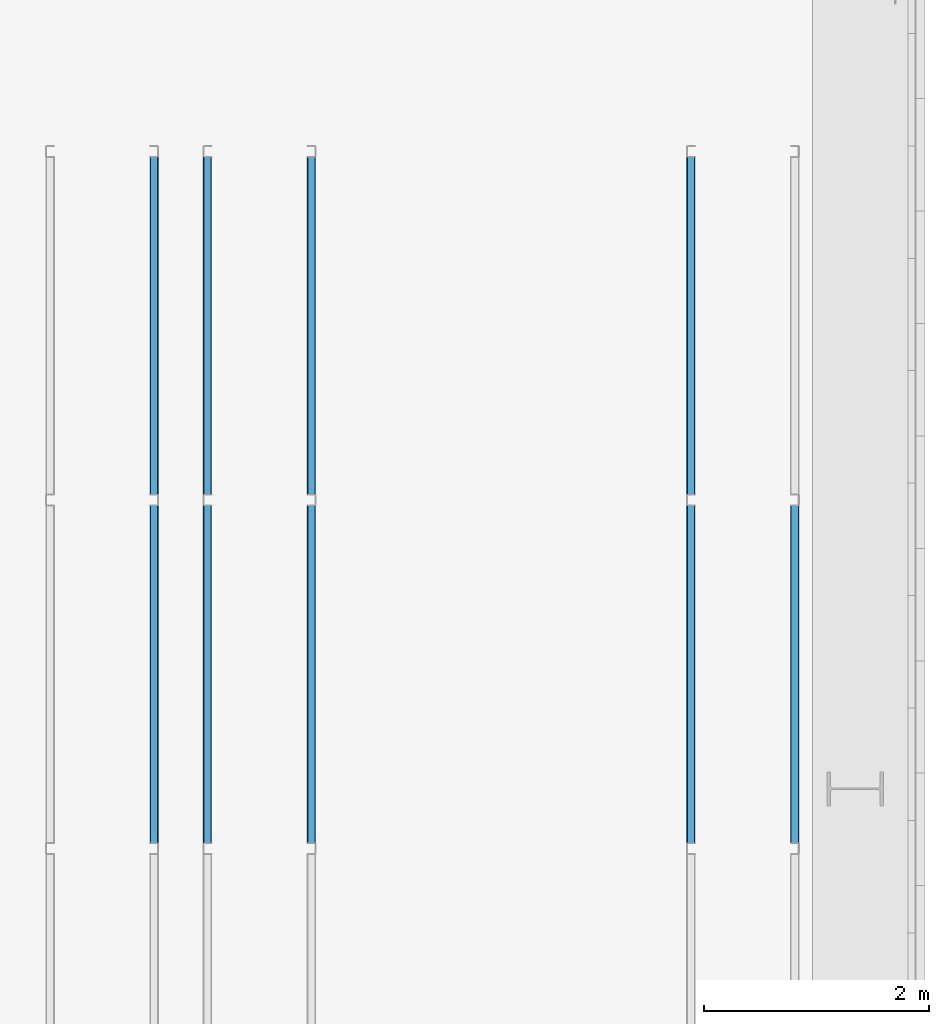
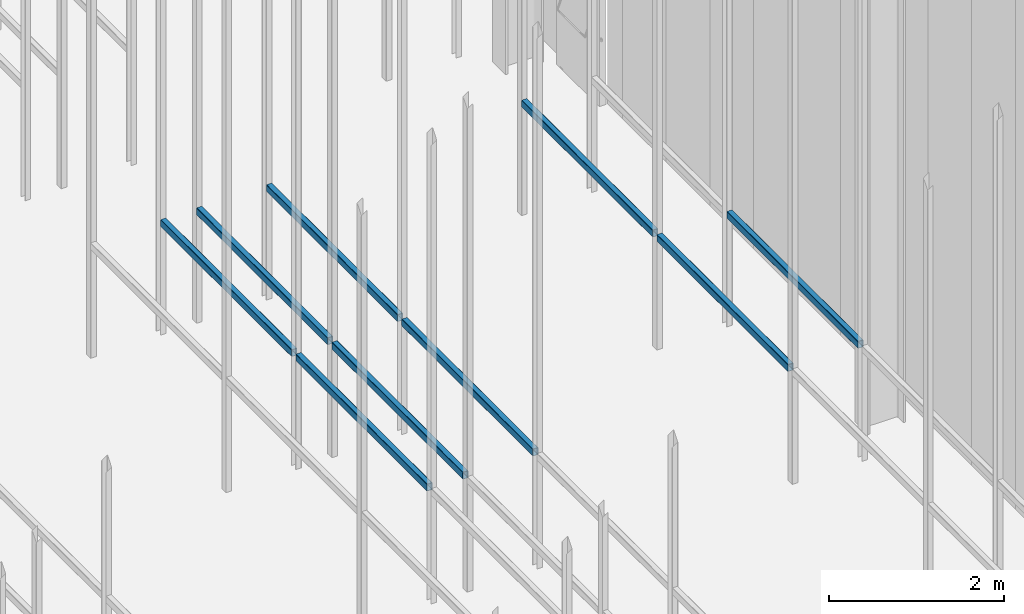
# One storey, part 152 of 302: 9 beams.
"""IFC2X3 building model written with IfcOpenShell, lengths in metres."""

from ifc_helpers import new_model, entity, si_unit, converted_unit, derived_unit, direction, frame, frame_2d, origin, place, context, subcontext, project, spatial, polyline, circle_curve, parameter, trimmed, segment, composite_curve, outline, extrude, material, type_object, element, save


model = new_model("IFC2X3")

# Units and contexts
model_context = context("Model", 3, precision=1e-05, world=origin(), true_north=direction((6.12303176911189e-17, 1.0)))
body_context = subcontext(model_context, "Body", "Model", "MODEL_VIEW")
ifc_project = project(units=[si_unit("LENGTHUNIT", "METRE"), si_unit("AREAUNIT", "SQUARE_METRE"), si_unit("VOLUMEUNIT", "CUBIC_METRE"), converted_unit("PLANEANGLEUNIT", "DEGREE", entity("IfcRatioMeasure", 0.0174532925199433), si_unit("PLANEANGLEUNIT", "RADIAN"), dimensions=[0, 0, 0, 0, 0, 0, 0]), si_unit("MASSUNIT", "GRAM", prefix="KILO"), derived_unit("MASSDENSITYUNIT", [(si_unit("MASSUNIT", "GRAM", prefix="KILO"), 1), (si_unit("LENGTHUNIT", "METRE"), -3)]), derived_unit("MOMENTOFINERTIAUNIT", [(si_unit("LENGTHUNIT", "METRE"), 4)]), si_unit("TIMEUNIT", "SECOND"), si_unit("FREQUENCYUNIT", "HERTZ"), si_unit("THERMODYNAMICTEMPERATUREUNIT", "DEGREE_CELSIUS"), derived_unit("THERMALTRANSMITTANCEUNIT", [(si_unit("MASSUNIT", "GRAM", prefix="KILO"), 1), (si_unit("THERMODYNAMICTEMPERATUREUNIT", "KELVIN"), -1), (si_unit("TIMEUNIT", "SECOND"), -3)]), derived_unit("VOLUMETRICFLOWRATEUNIT", [(si_unit("LENGTHUNIT", "METRE"), 3), (si_unit("TIMEUNIT", "SECOND"), -1)]), si_unit("ELECTRICCURRENTUNIT", "AMPERE"), si_unit("ELECTRICVOLTAGEUNIT", "VOLT"), si_unit("POWERUNIT", "WATT"), si_unit("FORCEUNIT", "NEWTON", prefix="KILO"), si_unit("ILLUMINANCEUNIT", "LUX"), si_unit("LUMINOUSFLUXUNIT", "LUMEN"), si_unit("LUMINOUSINTENSITYUNIT", "CANDELA"), derived_unit("USERDEFINED", [(si_unit("MASSUNIT", "GRAM", prefix="KILO"), -1), (si_unit("LENGTHUNIT", "METRE"), -2), (si_unit("TIMEUNIT", "SECOND"), 3), (si_unit("LUMINOUSFLUXUNIT", "LUMEN"), 1)]), derived_unit("LINEARVELOCITYUNIT", [(si_unit("LENGTHUNIT", "METRE"), 1), (si_unit("TIMEUNIT", "SECOND"), -1)]), si_unit("PRESSUREUNIT", "PASCAL"), derived_unit("USERDEFINED", [(si_unit("LENGTHUNIT", "METRE"), -2), (si_unit("MASSUNIT", "GRAM", prefix="KILO"), 1), (si_unit("TIMEUNIT", "SECOND"), -2)]), derived_unit("LINEARFORCEUNIT", [(si_unit("MASSUNIT", "GRAM", prefix="KILO"), 1), (si_unit("LENGTHUNIT", "METRE"), 1), (si_unit("TIMEUNIT", "SECOND"), -2), (si_unit("LENGTHUNIT", "METRE"), -1)]), derived_unit("PLANARFORCEUNIT", [(si_unit("MASSUNIT", "GRAM", prefix="KILO"), 1), (si_unit("LENGTHUNIT", "METRE"), 1), (si_unit("TIMEUNIT", "SECOND"), -2), (si_unit("LENGTHUNIT", "METRE"), -2)])], contexts=[model_context])

# Site, building, storey
site_placement = place(None, origin())
site = spatial("IfcSite", under=ifc_project, at=site_placement, Name="Default", CompositionType="ELEMENT")
building_placement = place(site_placement, origin())
building = spatial("IfcBuilding", under=site, at=building_placement, CompositionType="ELEMENT")
storey_placement = place(building_placement, frame((0.0, 0.0, -1.3)))
storey = spatial("IfcBuildingStorey", under=building, at=storey_placement, Name="00_EG", CompositionType="ELEMENT", Elevation=-1.3)

# Beams
ifc_material = material(Name="Metall - Baustahl S235 blau")
beam_type = type_object("IfcBeamType", Name="RHS Träger (EN 10219-2):RHS 100 x 75 x 5", PredefinedType="NOTDEFINED")
beam_1_placement = place(storey_placement, frame((-184.165111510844, 39.548088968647, 2.885), z_axis=(0.0, 0.0, 1.0), x_axis=(0.0, 1.0, 0.0)))
element("IfcBeam", 1, at=beam_1_placement, inside=storey, type_object=beam_type, material=ifc_material, Name="RHS Träger (EN 10219-2):RHS 100 x 75 x 5", ObjectType="RHS Träger (EN 10219-2):RHS 100 x 75 x 5", context=body_context, shape_type="SweptSolid", body=[
    extrude(outline(composite_curve([segment(polyline([(-0.0399999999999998, -0.0374999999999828), (0.0400000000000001, -0.0374999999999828)]), True, "CONTINUOUS"), segment(trimmed(circle_curve(frame_2d((0.0399999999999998, -0.0274999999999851), x_axis=(0.0, 1.0)), 0.01), [parameter(180.0)], [parameter(270.0)], True, "PARAMETER"), True, "CONTINUOUS"), segment(polyline([(0.05, -0.0274999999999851), (0.05, 0.0274999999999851)]), True, "CONTINUOUS"), segment(trimmed(circle_curve(frame_2d((0.0399999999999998, 0.0274999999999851), x_axis=(0.0, 1.0)), 0.01), [parameter(270.0)], [parameter(4.07110999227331e-13)], True, "PARAMETER"), True, "CONTINUOUS"), segment(polyline([(0.0400000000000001, 0.0375000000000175), (-0.0399999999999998, 0.0375000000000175)]), True, "CONTINUOUS"), segment(trimmed(circle_curve(frame_2d((-0.0400000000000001, 0.0274999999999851), x_axis=(0.0, 1.0)), 0.01), [parameter(360.0)], [parameter(90.0000000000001)], True, "PARAMETER"), True, "CONTINUOUS"), segment(polyline([(-0.05, 0.0274999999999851), (-0.05, -0.0274999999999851)]), True, "CONTINUOUS"), segment(trimmed(circle_curve(frame_2d((-0.0400000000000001, -0.0274999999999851), x_axis=(0.0, 1.0)), 0.01), [parameter(90.0000000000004)], [parameter(180.0)], True, "PARAMETER"), True, "CONTINUOUS")], self_intersect=False), holes=[composite_curve([segment(trimmed(circle_curve(frame_2d((-0.0400000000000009, 0.0274999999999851), x_axis=(0.0, 1.0)), 0.005), [parameter(360.0)], [parameter(89.9999999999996)], True, "PARAMETER"), False, "CONTINUOUS"), segment(polyline([(-0.0400000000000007, 0.0325000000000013), (0.0399999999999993, 0.0325000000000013)]), True, "CONTINUOUS"), segment(trimmed(circle_curve(frame_2d((0.039999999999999, 0.0274999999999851), x_axis=(0.0, 1.0)), 0.005), [parameter(270.0)], [parameter(0.0)], True, "PARAMETER"), False, "CONTINUOUS"), segment(polyline([(0.0449999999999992, 0.0274999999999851), (0.0449999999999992, -0.0274999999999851)]), True, "CONTINUOUS"), segment(trimmed(circle_curve(frame_2d((0.039999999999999, -0.0274999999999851), x_axis=(0.0, 1.0)), 0.005), [parameter(180.0)], [parameter(269.999999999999)], True, "PARAMETER"), False, "CONTINUOUS"), segment(polyline([(0.0399999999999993, -0.0325000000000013), (-0.0400000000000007, -0.0325000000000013)]), True, "CONTINUOUS"), segment(trimmed(circle_curve(frame_2d((-0.0400000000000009, -0.0274999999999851), x_axis=(0.0, 1.0)), 0.005), [parameter(90.0000000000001)], [parameter(180.0)], True, "PARAMETER"), False, "CONTINUOUS"), segment(polyline([(-0.0450000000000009, -0.0274999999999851), (-0.0450000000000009, 0.0274999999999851)]), True, "CONTINUOUS")], self_intersect=False)]), frame((0.000100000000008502, -0.0375000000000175, -0.0500000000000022), z_axis=(1.0, 0.0, 0.0), x_axis=(0.0, 0.0, -1.0)), (0.0, 0.0, 1.0), 2.99979999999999),
])
beam_2_placement = place(storey_placement, frame((-183.615111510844, 39.548088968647, 2.885), z_axis=(0.0, 0.0, 1.0), x_axis=(0.0, 1.0, 0.0)))
element("IfcBeam", 2, at=beam_2_placement, inside=storey, type_object=beam_type, material=ifc_material, Name="RHS Träger (EN 10219-2):RHS 100 x 75 x 5", ObjectType="RHS Träger (EN 10219-2):RHS 100 x 75 x 5", context=body_context, shape_type="SweptSolid", body=[
    extrude(outline(composite_curve([segment(trimmed(circle_curve(frame_2d((-0.0274999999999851, -0.0400000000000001), x_axis=(1.0, 0.0)), 0.01), [parameter(180.0)], [parameter(270.0)], True, "PARAMETER"), True, "CONTINUOUS"), segment(polyline([(-0.0274999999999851, -0.05), (0.0274999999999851, -0.05)]), True, "CONTINUOUS"), segment(trimmed(circle_curve(frame_2d((0.0274999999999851, -0.0400000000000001), x_axis=(1.0, 0.0)), 0.01), [parameter(270.0)], [parameter(5.08888749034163e-14)], True, "PARAMETER"), True, "CONTINUOUS"), segment(polyline([(0.0375000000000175, -0.0399999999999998), (0.0375000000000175, 0.0400000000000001)]), True, "CONTINUOUS"), segment(trimmed(circle_curve(frame_2d((0.0274999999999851, 0.0399999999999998), x_axis=(1.0, 0.0)), 0.01), [parameter(360.0)], [parameter(89.9999999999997)], True, "PARAMETER"), True, "CONTINUOUS"), segment(polyline([(0.0274999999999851, 0.05), (-0.0274999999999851, 0.05)]), True, "CONTINUOUS"), segment(trimmed(circle_curve(frame_2d((-0.0274999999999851, 0.0399999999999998), x_axis=(1.0, 0.0)), 0.01), [parameter(90.0000000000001)], [parameter(180.0)], True, "PARAMETER"), True, "CONTINUOUS"), segment(polyline([(-0.0374999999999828, 0.0400000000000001), (-0.0374999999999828, -0.0399999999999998)]), True, "CONTINUOUS")], self_intersect=False), holes=[composite_curve([segment(polyline([(0.0274999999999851, -0.0450000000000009), (-0.0274999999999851, -0.0450000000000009)]), True, "CONTINUOUS"), segment(trimmed(circle_curve(frame_2d((-0.0274999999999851, -0.0400000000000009), x_axis=(1.0, 0.0)), 0.005), [parameter(180.0)], [parameter(270.0)], True, "PARAMETER"), False, "CONTINUOUS"), segment(polyline([(-0.0325000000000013, -0.0400000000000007), (-0.0325000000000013, 0.0399999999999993)]), True, "CONTINUOUS"), segment(trimmed(circle_curve(frame_2d((-0.0274999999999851, 0.039999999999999), x_axis=(1.0, 0.0)), 0.005), [parameter(90.0000000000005)], [parameter(180.0)], True, "PARAMETER"), False, "CONTINUOUS"), segment(polyline([(-0.0274999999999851, 0.0449999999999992), (0.0274999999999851, 0.0449999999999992)]), True, "CONTINUOUS"), segment(trimmed(circle_curve(frame_2d((0.0274999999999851, 0.039999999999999), x_axis=(1.0, 0.0)), 0.005), [parameter(0.0)], [parameter(90.0000000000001)], True, "PARAMETER"), False, "CONTINUOUS"), segment(polyline([(0.0325000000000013, 0.0399999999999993), (0.0325000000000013, -0.0400000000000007)]), True, "CONTINUOUS"), segment(trimmed(circle_curve(frame_2d((0.0274999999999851, -0.0400000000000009), x_axis=(1.0, 0.0)), 0.005), [parameter(270.0)], [parameter(4.07110999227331e-13)], True, "PARAMETER"), False, "CONTINUOUS")], self_intersect=False)]), frame((0.000100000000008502, 0.0375000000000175, -0.0500000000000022), z_axis=(1.0, 0.0, 0.0), x_axis=(0.0, -1.0, 0.0)), (0.0, 0.0, 1.0), 2.99979999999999),
])
beam_3_placement = place(storey_placement, frame((-182.765111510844, 39.548088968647, 2.885), z_axis=(0.0, 0.0, 1.0), x_axis=(0.0, 1.0, 0.0)))
element("IfcBeam", 3, at=beam_3_placement, inside=storey, type_object=beam_type, material=ifc_material, Name="RHS Träger (EN 10219-2):RHS 100 x 75 x 5", ObjectType="RHS Träger (EN 10219-2):RHS 100 x 75 x 5", context=body_context, shape_type="SweptSolid", body=[
    extrude(outline(composite_curve([segment(polyline([(-0.0399999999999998, -0.0374999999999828), (0.0400000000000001, -0.0374999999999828)]), True, "CONTINUOUS"), segment(trimmed(circle_curve(frame_2d((0.0399999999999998, -0.0274999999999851), x_axis=(0.0, 1.0)), 0.01), [parameter(180.0)], [parameter(270.0)], True, "PARAMETER"), True, "CONTINUOUS"), segment(polyline([(0.05, -0.0274999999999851), (0.05, 0.0274999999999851)]), True, "CONTINUOUS"), segment(trimmed(circle_curve(frame_2d((0.0399999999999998, 0.0274999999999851), x_axis=(0.0, 1.0)), 0.01), [parameter(270.0)], [parameter(4.07110999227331e-13)], True, "PARAMETER"), True, "CONTINUOUS"), segment(polyline([(0.0400000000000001, 0.0375000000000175), (-0.0399999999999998, 0.0375000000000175)]), True, "CONTINUOUS"), segment(trimmed(circle_curve(frame_2d((-0.0400000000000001, 0.0274999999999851), x_axis=(0.0, 1.0)), 0.01), [parameter(360.0)], [parameter(90.0000000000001)], True, "PARAMETER"), True, "CONTINUOUS"), segment(polyline([(-0.05, 0.0274999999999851), (-0.05, -0.0274999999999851)]), True, "CONTINUOUS"), segment(trimmed(circle_curve(frame_2d((-0.0400000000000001, -0.0274999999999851), x_axis=(0.0, 1.0)), 0.01), [parameter(90.0000000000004)], [parameter(180.0)], True, "PARAMETER"), True, "CONTINUOUS")], self_intersect=False), holes=[composite_curve([segment(trimmed(circle_curve(frame_2d((-0.0400000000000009, 0.0274999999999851), x_axis=(0.0, 1.0)), 0.005), [parameter(360.0)], [parameter(89.9999999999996)], True, "PARAMETER"), False, "CONTINUOUS"), segment(polyline([(-0.0400000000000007, 0.0325000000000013), (0.0399999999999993, 0.0325000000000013)]), True, "CONTINUOUS"), segment(trimmed(circle_curve(frame_2d((0.039999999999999, 0.0274999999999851), x_axis=(0.0, 1.0)), 0.005), [parameter(270.0)], [parameter(0.0)], True, "PARAMETER"), False, "CONTINUOUS"), segment(polyline([(0.0449999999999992, 0.0274999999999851), (0.0449999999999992, -0.0274999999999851)]), True, "CONTINUOUS"), segment(trimmed(circle_curve(frame_2d((0.039999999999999, -0.0274999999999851), x_axis=(0.0, 1.0)), 0.005), [parameter(180.0)], [parameter(269.999999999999)], True, "PARAMETER"), False, "CONTINUOUS"), segment(polyline([(0.0399999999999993, -0.0325000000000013), (-0.0400000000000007, -0.0325000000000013)]), True, "CONTINUOUS"), segment(trimmed(circle_curve(frame_2d((-0.0400000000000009, -0.0274999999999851), x_axis=(0.0, 1.0)), 0.005), [parameter(90.0000000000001)], [parameter(180.0)], True, "PARAMETER"), False, "CONTINUOUS"), segment(polyline([(-0.0450000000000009, -0.0274999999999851), (-0.0450000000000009, 0.0274999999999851)]), True, "CONTINUOUS")], self_intersect=False)]), frame((0.000100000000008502, -0.0375000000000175, -0.0500000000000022), z_axis=(1.0, 0.0, 0.0), x_axis=(0.0, 0.0, -1.0)), (0.0, 0.0, 1.0), 2.99979999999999),
])
beam_4_placement = place(storey_placement, frame((-179.315111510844, 39.5480889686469, 2.885), z_axis=(0.0, 0.0, 1.0), x_axis=(0.0, 1.0, 0.0)))
element("IfcBeam", 4, at=beam_4_placement, inside=storey, type_object=beam_type, material=ifc_material, Name="RHS Träger (EN 10219-2):RHS 100 x 75 x 5", ObjectType="RHS Träger (EN 10219-2):RHS 100 x 75 x 5", context=body_context, shape_type="SweptSolid", body=[
    extrude(outline(composite_curve([segment(trimmed(circle_curve(frame_2d((-0.0274999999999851, -0.0400000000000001), x_axis=(1.0, 0.0)), 0.01), [parameter(180.0)], [parameter(270.0)], True, "PARAMETER"), True, "CONTINUOUS"), segment(polyline([(-0.0274999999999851, -0.05), (0.0274999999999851, -0.05)]), True, "CONTINUOUS"), segment(trimmed(circle_curve(frame_2d((0.0274999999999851, -0.0400000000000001), x_axis=(1.0, 0.0)), 0.01), [parameter(270.0)], [parameter(5.08888749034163e-14)], True, "PARAMETER"), True, "CONTINUOUS"), segment(polyline([(0.0375000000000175, -0.0399999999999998), (0.0375000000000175, 0.0400000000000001)]), True, "CONTINUOUS"), segment(trimmed(circle_curve(frame_2d((0.0274999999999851, 0.0399999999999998), x_axis=(1.0, 0.0)), 0.01), [parameter(360.0)], [parameter(89.9999999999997)], True, "PARAMETER"), True, "CONTINUOUS"), segment(polyline([(0.0274999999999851, 0.05), (-0.0274999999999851, 0.05)]), True, "CONTINUOUS"), segment(trimmed(circle_curve(frame_2d((-0.0274999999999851, 0.0399999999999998), x_axis=(1.0, 0.0)), 0.01), [parameter(90.0000000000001)], [parameter(180.0)], True, "PARAMETER"), True, "CONTINUOUS"), segment(polyline([(-0.0374999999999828, 0.0400000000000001), (-0.0374999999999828, -0.0399999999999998)]), True, "CONTINUOUS")], self_intersect=False), holes=[composite_curve([segment(polyline([(0.0274999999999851, -0.0450000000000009), (-0.0274999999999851, -0.0450000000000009)]), True, "CONTINUOUS"), segment(trimmed(circle_curve(frame_2d((-0.0274999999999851, -0.0400000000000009), x_axis=(1.0, 0.0)), 0.005), [parameter(180.0)], [parameter(270.0)], True, "PARAMETER"), False, "CONTINUOUS"), segment(polyline([(-0.0325000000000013, -0.0400000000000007), (-0.0325000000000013, 0.0399999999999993)]), True, "CONTINUOUS"), segment(trimmed(circle_curve(frame_2d((-0.0274999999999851, 0.039999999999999), x_axis=(1.0, 0.0)), 0.005), [parameter(90.0000000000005)], [parameter(180.0)], True, "PARAMETER"), False, "CONTINUOUS"), segment(polyline([(-0.0274999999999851, 0.0449999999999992), (0.0274999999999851, 0.0449999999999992)]), True, "CONTINUOUS"), segment(trimmed(circle_curve(frame_2d((0.0274999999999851, 0.039999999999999), x_axis=(1.0, 0.0)), 0.005), [parameter(0.0)], [parameter(90.0000000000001)], True, "PARAMETER"), False, "CONTINUOUS"), segment(polyline([(0.0325000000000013, 0.0399999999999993), (0.0325000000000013, -0.0400000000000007)]), True, "CONTINUOUS"), segment(trimmed(circle_curve(frame_2d((0.0274999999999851, -0.0400000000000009), x_axis=(1.0, 0.0)), 0.005), [parameter(270.0)], [parameter(4.07110999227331e-13)], True, "PARAMETER"), False, "CONTINUOUS")], self_intersect=False)]), frame((9.99999999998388e-05, 0.0375000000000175, -0.0500000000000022), z_axis=(1.0, 0.0, 0.0), x_axis=(0.0, -1.0, 0.0)), (0.0, 0.0, 1.0), 2.99979999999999),
])
beam_5_placement = place(storey_placement, frame((-178.465111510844, 39.5480889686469, 2.885), z_axis=(0.0, 0.0, 1.0), x_axis=(0.0, 1.0, 0.0)))
element("IfcBeam", 5, at=beam_5_placement, inside=storey, type_object=beam_type, material=ifc_material, Name="RHS Träger (EN 10219-2):RHS 100 x 75 x 5", ObjectType="RHS Träger (EN 10219-2):RHS 100 x 75 x 5", context=body_context, shape_type="SweptSolid", body=[
    extrude(outline(composite_curve([segment(polyline([(-0.0399999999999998, -0.0374999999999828), (0.0400000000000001, -0.0374999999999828)]), True, "CONTINUOUS"), segment(trimmed(circle_curve(frame_2d((0.0399999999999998, -0.0274999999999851), x_axis=(0.0, 1.0)), 0.01), [parameter(180.0)], [parameter(270.0)], True, "PARAMETER"), True, "CONTINUOUS"), segment(polyline([(0.05, -0.0274999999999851), (0.05, 0.0274999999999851)]), True, "CONTINUOUS"), segment(trimmed(circle_curve(frame_2d((0.0399999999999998, 0.0274999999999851), x_axis=(0.0, 1.0)), 0.01), [parameter(270.0)], [parameter(4.07110999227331e-13)], True, "PARAMETER"), True, "CONTINUOUS"), segment(polyline([(0.0400000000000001, 0.0375000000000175), (-0.0399999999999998, 0.0375000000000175)]), True, "CONTINUOUS"), segment(trimmed(circle_curve(frame_2d((-0.0400000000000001, 0.0274999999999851), x_axis=(0.0, 1.0)), 0.01), [parameter(360.0)], [parameter(90.0000000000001)], True, "PARAMETER"), True, "CONTINUOUS"), segment(polyline([(-0.05, 0.0274999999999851), (-0.05, -0.0274999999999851)]), True, "CONTINUOUS"), segment(trimmed(circle_curve(frame_2d((-0.0400000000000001, -0.0274999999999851), x_axis=(0.0, 1.0)), 0.01), [parameter(90.0000000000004)], [parameter(180.0)], True, "PARAMETER"), True, "CONTINUOUS")], self_intersect=False), holes=[composite_curve([segment(trimmed(circle_curve(frame_2d((-0.0400000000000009, 0.0274999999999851), x_axis=(0.0, 1.0)), 0.005), [parameter(360.0)], [parameter(89.9999999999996)], True, "PARAMETER"), False, "CONTINUOUS"), segment(polyline([(-0.0400000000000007, 0.0325000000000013), (0.0399999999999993, 0.0325000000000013)]), True, "CONTINUOUS"), segment(trimmed(circle_curve(frame_2d((0.039999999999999, 0.0274999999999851), x_axis=(0.0, 1.0)), 0.005), [parameter(270.0)], [parameter(0.0)], True, "PARAMETER"), False, "CONTINUOUS"), segment(polyline([(0.0449999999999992, 0.0274999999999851), (0.0449999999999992, -0.0274999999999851)]), True, "CONTINUOUS"), segment(trimmed(circle_curve(frame_2d((0.039999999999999, -0.0274999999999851), x_axis=(0.0, 1.0)), 0.005), [parameter(180.0)], [parameter(269.999999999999)], True, "PARAMETER"), False, "CONTINUOUS"), segment(polyline([(0.0399999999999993, -0.0325000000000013), (-0.0400000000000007, -0.0325000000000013)]), True, "CONTINUOUS"), segment(trimmed(circle_curve(frame_2d((-0.0400000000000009, -0.0274999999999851), x_axis=(0.0, 1.0)), 0.005), [parameter(90.0000000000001)], [parameter(180.0)], True, "PARAMETER"), False, "CONTINUOUS"), segment(polyline([(-0.0450000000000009, -0.0274999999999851), (-0.0450000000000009, 0.0274999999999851)]), True, "CONTINUOUS")], self_intersect=False)]), frame((9.99999999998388e-05, -0.0375000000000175, -0.0500000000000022), z_axis=(1.0, 0.0, 0.0), x_axis=(0.0, 0.0, -1.0)), (0.0, 0.0, 1.0), 2.99979999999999),
])
beam_6_placement = place(storey_placement, frame((-184.165111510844, 42.648088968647, 2.885), z_axis=(0.0, 0.0, 1.0), x_axis=(0.0, 1.0, 0.0)))
element("IfcBeam", 6, at=beam_6_placement, inside=storey, type_object=beam_type, material=ifc_material, Name="RHS Träger (EN 10219-2):RHS 100 x 75 x 5", ObjectType="RHS Träger (EN 10219-2):RHS 100 x 75 x 5", context=body_context, shape_type="SweptSolid", body=[
    extrude(outline(composite_curve([segment(polyline([(-0.0399999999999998, -0.0374999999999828), (0.0400000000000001, -0.0374999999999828)]), True, "CONTINUOUS"), segment(trimmed(circle_curve(frame_2d((0.0399999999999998, -0.0274999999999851), x_axis=(0.0, 1.0)), 0.01), [parameter(180.0)], [parameter(270.0)], True, "PARAMETER"), True, "CONTINUOUS"), segment(polyline([(0.05, -0.0274999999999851), (0.05, 0.0274999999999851)]), True, "CONTINUOUS"), segment(trimmed(circle_curve(frame_2d((0.0399999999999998, 0.0274999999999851), x_axis=(0.0, 1.0)), 0.01), [parameter(270.0)], [parameter(4.07110999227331e-13)], True, "PARAMETER"), True, "CONTINUOUS"), segment(polyline([(0.0400000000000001, 0.0375000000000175), (-0.0399999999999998, 0.0375000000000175)]), True, "CONTINUOUS"), segment(trimmed(circle_curve(frame_2d((-0.0400000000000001, 0.0274999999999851), x_axis=(0.0, 1.0)), 0.01), [parameter(360.0)], [parameter(90.0000000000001)], True, "PARAMETER"), True, "CONTINUOUS"), segment(polyline([(-0.05, 0.0274999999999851), (-0.05, -0.0274999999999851)]), True, "CONTINUOUS"), segment(trimmed(circle_curve(frame_2d((-0.0400000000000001, -0.0274999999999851), x_axis=(0.0, 1.0)), 0.01), [parameter(90.0000000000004)], [parameter(180.0)], True, "PARAMETER"), True, "CONTINUOUS")], self_intersect=False), holes=[composite_curve([segment(trimmed(circle_curve(frame_2d((-0.0400000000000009, 0.0274999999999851), x_axis=(0.0, 1.0)), 0.005), [parameter(360.0)], [parameter(89.9999999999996)], True, "PARAMETER"), False, "CONTINUOUS"), segment(polyline([(-0.0400000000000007, 0.0325000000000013), (0.0399999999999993, 0.0325000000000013)]), True, "CONTINUOUS"), segment(trimmed(circle_curve(frame_2d((0.039999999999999, 0.0274999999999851), x_axis=(0.0, 1.0)), 0.005), [parameter(270.0)], [parameter(0.0)], True, "PARAMETER"), False, "CONTINUOUS"), segment(polyline([(0.0449999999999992, 0.0274999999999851), (0.0449999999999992, -0.0274999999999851)]), True, "CONTINUOUS"), segment(trimmed(circle_curve(frame_2d((0.039999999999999, -0.0274999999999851), x_axis=(0.0, 1.0)), 0.005), [parameter(180.0)], [parameter(269.999999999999)], True, "PARAMETER"), False, "CONTINUOUS"), segment(polyline([(0.0399999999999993, -0.0325000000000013), (-0.0400000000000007, -0.0325000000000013)]), True, "CONTINUOUS"), segment(trimmed(circle_curve(frame_2d((-0.0400000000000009, -0.0274999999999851), x_axis=(0.0, 1.0)), 0.005), [parameter(90.0000000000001)], [parameter(180.0)], True, "PARAMETER"), False, "CONTINUOUS"), segment(polyline([(-0.0450000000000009, -0.0274999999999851), (-0.0450000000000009, 0.0274999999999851)]), True, "CONTINUOUS")], self_intersect=False)]), frame((0.000100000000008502, -0.0375000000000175, -0.0500000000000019), z_axis=(1.0, 0.0, 0.0), x_axis=(0.0, 0.0, -1.0)), (0.0, 0.0, 1.0), 2.99979999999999),
])
beam_7_placement = place(storey_placement, frame((-183.615111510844, 42.648088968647, 2.885), z_axis=(0.0, 0.0, 1.0), x_axis=(0.0, 1.0, 0.0)))
element("IfcBeam", 7, at=beam_7_placement, inside=storey, type_object=beam_type, material=ifc_material, Name="RHS Träger (EN 10219-2):RHS 100 x 75 x 5", ObjectType="RHS Träger (EN 10219-2):RHS 100 x 75 x 5", context=body_context, shape_type="SweptSolid", body=[
    extrude(outline(composite_curve([segment(trimmed(circle_curve(frame_2d((-0.0274999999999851, -0.0400000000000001), x_axis=(1.0, 0.0)), 0.01), [parameter(180.0)], [parameter(270.0)], True, "PARAMETER"), True, "CONTINUOUS"), segment(polyline([(-0.0274999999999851, -0.05), (0.0274999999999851, -0.05)]), True, "CONTINUOUS"), segment(trimmed(circle_curve(frame_2d((0.0274999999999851, -0.0400000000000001), x_axis=(1.0, 0.0)), 0.01), [parameter(270.0)], [parameter(5.08888749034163e-14)], True, "PARAMETER"), True, "CONTINUOUS"), segment(polyline([(0.0375000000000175, -0.0399999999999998), (0.0375000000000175, 0.0400000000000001)]), True, "CONTINUOUS"), segment(trimmed(circle_curve(frame_2d((0.0274999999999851, 0.0399999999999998), x_axis=(1.0, 0.0)), 0.01), [parameter(360.0)], [parameter(89.9999999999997)], True, "PARAMETER"), True, "CONTINUOUS"), segment(polyline([(0.0274999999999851, 0.05), (-0.0274999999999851, 0.05)]), True, "CONTINUOUS"), segment(trimmed(circle_curve(frame_2d((-0.0274999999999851, 0.0399999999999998), x_axis=(1.0, 0.0)), 0.01), [parameter(90.0000000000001)], [parameter(180.0)], True, "PARAMETER"), True, "CONTINUOUS"), segment(polyline([(-0.0374999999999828, 0.0400000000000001), (-0.0374999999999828, -0.0399999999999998)]), True, "CONTINUOUS")], self_intersect=False), holes=[composite_curve([segment(polyline([(0.0274999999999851, -0.0450000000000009), (-0.0274999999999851, -0.0450000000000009)]), True, "CONTINUOUS"), segment(trimmed(circle_curve(frame_2d((-0.0274999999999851, -0.0400000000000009), x_axis=(1.0, 0.0)), 0.005), [parameter(180.0)], [parameter(270.0)], True, "PARAMETER"), False, "CONTINUOUS"), segment(polyline([(-0.0325000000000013, -0.0400000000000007), (-0.0325000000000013, 0.0399999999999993)]), True, "CONTINUOUS"), segment(trimmed(circle_curve(frame_2d((-0.0274999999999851, 0.039999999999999), x_axis=(1.0, 0.0)), 0.005), [parameter(90.0000000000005)], [parameter(180.0)], True, "PARAMETER"), False, "CONTINUOUS"), segment(polyline([(-0.0274999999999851, 0.0449999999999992), (0.0274999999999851, 0.0449999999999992)]), True, "CONTINUOUS"), segment(trimmed(circle_curve(frame_2d((0.0274999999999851, 0.039999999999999), x_axis=(1.0, 0.0)), 0.005), [parameter(0.0)], [parameter(90.0000000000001)], True, "PARAMETER"), False, "CONTINUOUS"), segment(polyline([(0.0325000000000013, 0.0399999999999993), (0.0325000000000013, -0.0400000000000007)]), True, "CONTINUOUS"), segment(trimmed(circle_curve(frame_2d((0.0274999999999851, -0.0400000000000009), x_axis=(1.0, 0.0)), 0.005), [parameter(270.0)], [parameter(4.07110999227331e-13)], True, "PARAMETER"), False, "CONTINUOUS")], self_intersect=False)]), frame((9.99999999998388e-05, 0.0375000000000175, -0.0500000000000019), z_axis=(1.0, 0.0, 0.0), x_axis=(0.0, -1.0, 0.0)), (0.0, 0.0, 1.0), 2.99979999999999),
])
beam_8_placement = place(storey_placement, frame((-182.765111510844, 42.648088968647, 2.885), z_axis=(0.0, 0.0, 1.0), x_axis=(0.0, 1.0, 0.0)))
element("IfcBeam", 8, at=beam_8_placement, inside=storey, type_object=beam_type, material=ifc_material, Name="RHS Träger (EN 10219-2):RHS 100 x 75 x 5", ObjectType="RHS Träger (EN 10219-2):RHS 100 x 75 x 5", context=body_context, shape_type="SweptSolid", body=[
    extrude(outline(composite_curve([segment(polyline([(-0.0399999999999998, -0.0374999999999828), (0.0400000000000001, -0.0374999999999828)]), True, "CONTINUOUS"), segment(trimmed(circle_curve(frame_2d((0.0399999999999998, -0.0274999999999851), x_axis=(0.0, 1.0)), 0.01), [parameter(180.0)], [parameter(270.0)], True, "PARAMETER"), True, "CONTINUOUS"), segment(polyline([(0.05, -0.0274999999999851), (0.05, 0.0274999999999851)]), True, "CONTINUOUS"), segment(trimmed(circle_curve(frame_2d((0.0399999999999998, 0.0274999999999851), x_axis=(0.0, 1.0)), 0.01), [parameter(270.0)], [parameter(4.07110999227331e-13)], True, "PARAMETER"), True, "CONTINUOUS"), segment(polyline([(0.0400000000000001, 0.0375000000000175), (-0.0399999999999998, 0.0375000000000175)]), True, "CONTINUOUS"), segment(trimmed(circle_curve(frame_2d((-0.0400000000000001, 0.0274999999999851), x_axis=(0.0, 1.0)), 0.01), [parameter(360.0)], [parameter(90.0000000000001)], True, "PARAMETER"), True, "CONTINUOUS"), segment(polyline([(-0.05, 0.0274999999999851), (-0.05, -0.0274999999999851)]), True, "CONTINUOUS"), segment(trimmed(circle_curve(frame_2d((-0.0400000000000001, -0.0274999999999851), x_axis=(0.0, 1.0)), 0.01), [parameter(90.0000000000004)], [parameter(180.0)], True, "PARAMETER"), True, "CONTINUOUS")], self_intersect=False), holes=[composite_curve([segment(trimmed(circle_curve(frame_2d((-0.0400000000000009, 0.0274999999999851), x_axis=(0.0, 1.0)), 0.005), [parameter(360.0)], [parameter(89.9999999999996)], True, "PARAMETER"), False, "CONTINUOUS"), segment(polyline([(-0.0400000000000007, 0.0325000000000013), (0.0399999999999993, 0.0325000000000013)]), True, "CONTINUOUS"), segment(trimmed(circle_curve(frame_2d((0.039999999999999, 0.0274999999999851), x_axis=(0.0, 1.0)), 0.005), [parameter(270.0)], [parameter(0.0)], True, "PARAMETER"), False, "CONTINUOUS"), segment(polyline([(0.0449999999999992, 0.0274999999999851), (0.0449999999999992, -0.0274999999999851)]), True, "CONTINUOUS"), segment(trimmed(circle_curve(frame_2d((0.039999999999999, -0.0274999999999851), x_axis=(0.0, 1.0)), 0.005), [parameter(180.0)], [parameter(269.999999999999)], True, "PARAMETER"), False, "CONTINUOUS"), segment(polyline([(0.0399999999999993, -0.0325000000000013), (-0.0400000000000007, -0.0325000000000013)]), True, "CONTINUOUS"), segment(trimmed(circle_curve(frame_2d((-0.0400000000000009, -0.0274999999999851), x_axis=(0.0, 1.0)), 0.005), [parameter(90.0000000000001)], [parameter(180.0)], True, "PARAMETER"), False, "CONTINUOUS"), segment(polyline([(-0.0450000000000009, -0.0274999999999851), (-0.0450000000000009, 0.0274999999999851)]), True, "CONTINUOUS")], self_intersect=False)]), frame((9.99999999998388e-05, -0.0375000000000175, -0.0500000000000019), z_axis=(1.0, 0.0, 0.0), x_axis=(0.0, 0.0, -1.0)), (0.0, 0.0, 1.0), 2.99979999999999),
])
beam_9_placement = place(storey_placement, frame((-179.315111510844, 42.6480889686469, 2.885), z_axis=(0.0, 0.0, 1.0), x_axis=(0.0, 1.0, 0.0)))
element("IfcBeam", 9, at=beam_9_placement, inside=storey, type_object=beam_type, material=ifc_material, Name="RHS Träger (EN 10219-2):RHS 100 x 75 x 5", ObjectType="RHS Träger (EN 10219-2):RHS 100 x 75 x 5", context=body_context, shape_type="SweptSolid", body=[
    extrude(outline(composite_curve([segment(trimmed(circle_curve(frame_2d((-0.0274999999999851, -0.0400000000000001), x_axis=(1.0, 0.0)), 0.01), [parameter(180.0)], [parameter(270.0)], True, "PARAMETER"), True, "CONTINUOUS"), segment(polyline([(-0.0274999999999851, -0.05), (0.0274999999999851, -0.05)]), True, "CONTINUOUS"), segment(trimmed(circle_curve(frame_2d((0.0274999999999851, -0.0400000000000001), x_axis=(1.0, 0.0)), 0.01), [parameter(270.0)], [parameter(5.08888749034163e-14)], True, "PARAMETER"), True, "CONTINUOUS"), segment(polyline([(0.0375000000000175, -0.0399999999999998), (0.0375000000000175, 0.0400000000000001)]), True, "CONTINUOUS"), segment(trimmed(circle_curve(frame_2d((0.0274999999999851, 0.0399999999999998), x_axis=(1.0, 0.0)), 0.01), [parameter(360.0)], [parameter(89.9999999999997)], True, "PARAMETER"), True, "CONTINUOUS"), segment(polyline([(0.0274999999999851, 0.05), (-0.0274999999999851, 0.05)]), True, "CONTINUOUS"), segment(trimmed(circle_curve(frame_2d((-0.0274999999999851, 0.0399999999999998), x_axis=(1.0, 0.0)), 0.01), [parameter(90.0000000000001)], [parameter(180.0)], True, "PARAMETER"), True, "CONTINUOUS"), segment(polyline([(-0.0374999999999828, 0.0400000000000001), (-0.0374999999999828, -0.0399999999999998)]), True, "CONTINUOUS")], self_intersect=False), holes=[composite_curve([segment(polyline([(0.0274999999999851, -0.0450000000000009), (-0.0274999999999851, -0.0450000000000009)]), True, "CONTINUOUS"), segment(trimmed(circle_curve(frame_2d((-0.0274999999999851, -0.0400000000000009), x_axis=(1.0, 0.0)), 0.005), [parameter(180.0)], [parameter(270.0)], True, "PARAMETER"), False, "CONTINUOUS"), segment(polyline([(-0.0325000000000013, -0.0400000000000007), (-0.0325000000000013, 0.0399999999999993)]), True, "CONTINUOUS"), segment(trimmed(circle_curve(frame_2d((-0.0274999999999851, 0.039999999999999), x_axis=(1.0, 0.0)), 0.005), [parameter(90.0000000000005)], [parameter(180.0)], True, "PARAMETER"), False, "CONTINUOUS"), segment(polyline([(-0.0274999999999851, 0.0449999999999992), (0.0274999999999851, 0.0449999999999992)]), True, "CONTINUOUS"), segment(trimmed(circle_curve(frame_2d((0.0274999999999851, 0.039999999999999), x_axis=(1.0, 0.0)), 0.005), [parameter(0.0)], [parameter(90.0000000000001)], True, "PARAMETER"), False, "CONTINUOUS"), segment(polyline([(0.0325000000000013, 0.0399999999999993), (0.0325000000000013, -0.0400000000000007)]), True, "CONTINUOUS"), segment(trimmed(circle_curve(frame_2d((0.0274999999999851, -0.0400000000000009), x_axis=(1.0, 0.0)), 0.005), [parameter(270.0)], [parameter(4.07110999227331e-13)], True, "PARAMETER"), False, "CONTINUOUS")], self_intersect=False)]), frame((0.000100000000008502, 0.0375000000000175, -0.0500000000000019), z_axis=(1.0, 0.0, 0.0), x_axis=(0.0, -1.0, 0.0)), (0.0, 0.0, 1.0), 2.99979999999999),
])

save(model, "model.ifc")
